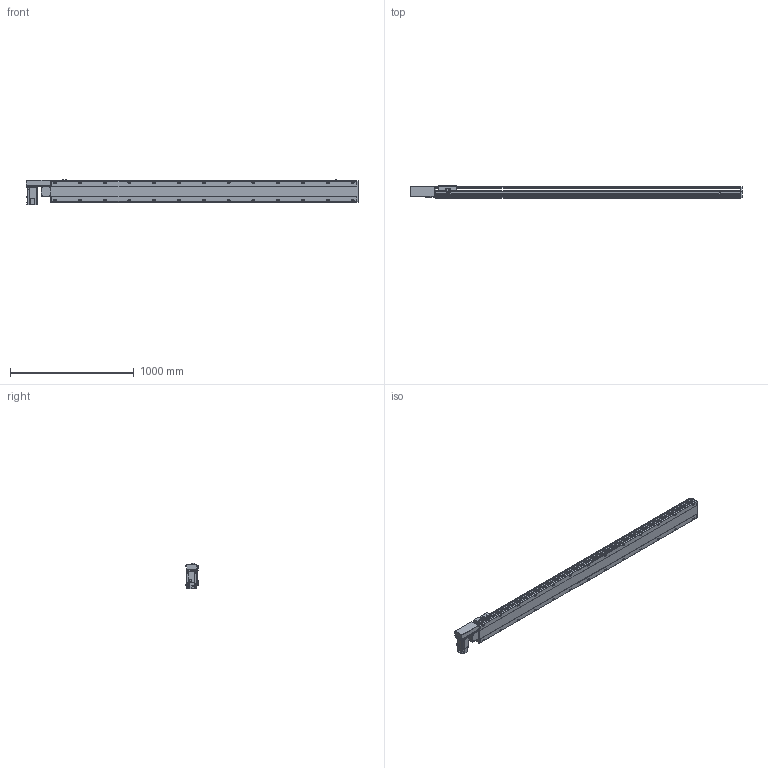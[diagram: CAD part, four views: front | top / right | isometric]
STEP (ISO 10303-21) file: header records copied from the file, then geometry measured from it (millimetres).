
FILE_DESCRIPTION( ( 'STEP AP214' ), '1' );
FILE_NAME( 'x:/temp/worker_4/temp/exporttempdir_2248_290_kMoAw/format_0/PBS170-P40-S2200-R-T75-C1-N(0).stp', '2022-06-07T07:31:53', ( 'License CC BY-ND 4.0' ), ( 'CADENAS' ), ' ', 'PARTsolutions', ' ' );
FILE_SCHEMA( ( 'AUTOMOTIVE_DESIGN { 1 0 10303 214 1 1 1 1 }' ) );
Length unit declared in the file: millimetre
Products named in the file (7): PBS170-P40-S2200-R-T75-C1-N(0); _PBS170-S2200()_body; _PBS170T-R_motors; _T75-p1; _PBS170_sliser; _PBS170_plant; _PBS170_sensor
Assembly tree (8 placements, depth 2):
  PBS170-P40-S2200-R-T75-C1-N(0)
    _PBS170-S2200()_body
    _PBS170T-R_motors
    _T75-p1
    _PBS170_sliser
    _PBS170_plant
    _PBS170_sensor  x3
Bounding box: 2678 x 97 x 205.3 mm (x, y, z)
Volume: 19543025.4 mm3; surface area: 2470893.9 mm2
Topology: 8 solids, 8 shells, 1162 faces, 3075 edges, 2004 vertices
Faces by surface type: plane 717, cylinder 379, cone 56, sphere 8, torus 2
Full cylindrical faces by diameter (mm): 3.242 x4, 4 x2, 4.4 x4, 4.5 x6, 4.917 x4, 6 x9, 6.647 x34, 7 x2, 7.5 x4, 8 x8, 8.5 x26, 10 x4, 10.5 x26, 11 x2, 30 x2, 40 x1, 70 x1
Entity records: 42950 total; most frequent: CARTESIAN_POINT 7061, DIRECTION 5650, ORIENTED_EDGE 5328, EDGE_CURVE 2664, AXIS2_PLACEMENT_3D 1987, VERTEX_POINT 1850, LINE 1676, VECTOR 1676
